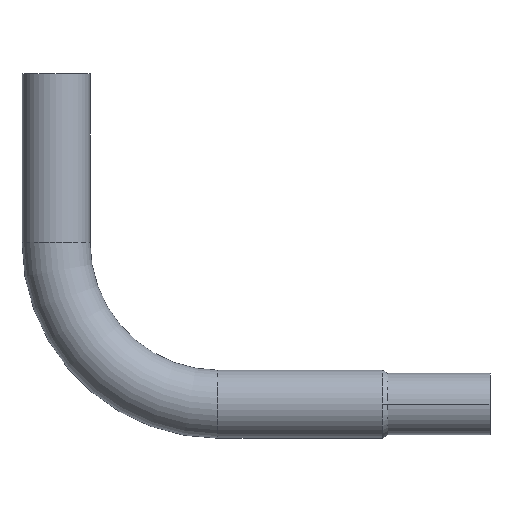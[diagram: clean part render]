
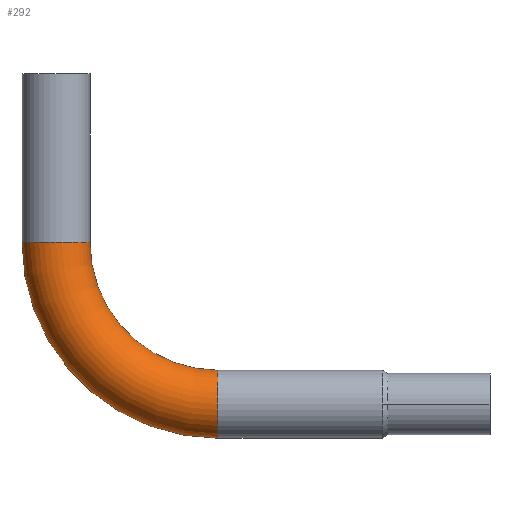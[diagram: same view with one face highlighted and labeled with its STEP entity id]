
A CAD part, top view. The second image highlights one B-rep face of the part: STEP entity #292.
In plain terms, the highlighted toroidal (fillet/blend) face has major radius 100 mm and minor radius 21 mm.
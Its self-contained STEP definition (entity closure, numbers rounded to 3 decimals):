
#12 = CARTESIAN_POINT ( 'NONE',  ( -168., 100., 0. ) ) ;
#14 = EDGE_LOOP ( 'NONE', ( #41, #275, #101, #643 ) ) ;
#16 = DIRECTION ( 'NONE',  ( -1., 0., 0. ) ) ;
#25 = CARTESIAN_POINT ( 'NONE',  ( -168., 21., 0. ) ) ;
#32 = EDGE_CURVE ( 'NONE', #441, #336, #220, .T. ) ;
#41 = ORIENTED_EDGE ( 'NONE', *, *, #65, .F. ) ;
#52 = AXIS2_PLACEMENT_3D ( 'NONE', #535, #533, #488 ) ;
#65 = EDGE_CURVE ( 'NONE', #357, #223, #235, .T. ) ;
#88 = AXIS2_PLACEMENT_3D ( 'NONE', #211, #206, #197 ) ;
#101 = ORIENTED_EDGE ( 'NONE', *, *, #32, .T. ) ;
#110 = EDGE_CURVE ( 'NONE', #441, #357, #119, .T. ) ;
#119 = CIRCLE ( 'NONE', #88, 21. ) ;
#197 = DIRECTION ( 'NONE',  ( 0., 0., -1. ) ) ;
#206 = DIRECTION ( 'NONE',  ( 1., 0., 0. ) ) ;
#211 = CARTESIAN_POINT ( 'NONE',  ( -168., 0., 0. ) ) ;
#220 = CIRCLE ( 'NONE', #674, 79. ) ;
#223 = VERTEX_POINT ( 'NONE', #379 ) ;
#235 = CIRCLE ( 'NONE', #52, 121. ) ;
#244 = CARTESIAN_POINT ( 'NONE',  ( -268., 100., 0. ) ) ;
#275 = ORIENTED_EDGE ( 'NONE', *, *, #110, .F. ) ;
#291 = AXIS2_PLACEMENT_3D ( 'NONE', #244, #610, #298 ) ;
#292 = ADVANCED_FACE ( 'NONE', ( #597 ), #566, .T. ) ;
#298 = DIRECTION ( 'NONE',  ( 0., 0., -1. ) ) ;
#336 = VERTEX_POINT ( 'NONE', #512 ) ;
#339 = DIRECTION ( 'NONE',  ( 0., 0., -1. ) ) ;
#357 = VERTEX_POINT ( 'NONE', #558 ) ;
#379 = CARTESIAN_POINT ( 'NONE',  ( -289., 100., 0. ) ) ;
#440 = EDGE_CURVE ( 'NONE', #336, #223, #465, .T. ) ;
#441 = VERTEX_POINT ( 'NONE', #25 ) ;
#465 = CIRCLE ( 'NONE', #291, 21. ) ;
#488 = DIRECTION ( 'NONE',  ( -1., 0., 0. ) ) ;
#512 = CARTESIAN_POINT ( 'NONE',  ( -247., 100., 0. ) ) ;
#533 = DIRECTION ( 'NONE',  ( 0., 0., -1. ) ) ;
#535 = CARTESIAN_POINT ( 'NONE',  ( -168., 100., 0. ) ) ;
#558 = CARTESIAN_POINT ( 'NONE',  ( -168., -21., 0. ) ) ;
#566 = TOROIDAL_SURFACE ( 'NONE', #619, 100., 21. ) ;
#597 = FACE_OUTER_BOUND ( 'NONE', #14, .T. ) ;
#610 = DIRECTION ( 'NONE',  ( 0., -1., 0. ) ) ;
#619 = AXIS2_PLACEMENT_3D ( 'NONE', #12, #339, #16 ) ;
#623 = DIRECTION ( 'NONE',  ( -1., 0., 0. ) ) ;
#626 = DIRECTION ( 'NONE',  ( 0., 0., -1. ) ) ;
#629 = CARTESIAN_POINT ( 'NONE',  ( -168., 100., 0. ) ) ;
#643 = ORIENTED_EDGE ( 'NONE', *, *, #440, .T. ) ;
#674 = AXIS2_PLACEMENT_3D ( 'NONE', #629, #626, #623 ) ;
